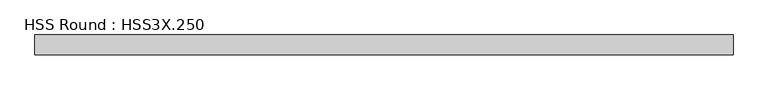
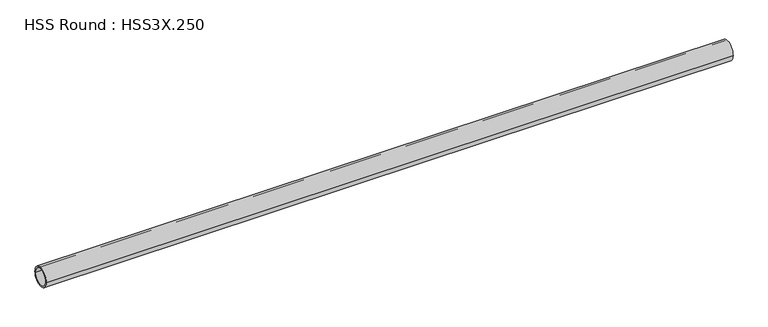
"""IFC4 building model written with IfcOpenShell, lengths in millimetres: member geometry, HSS Round : HSS3X.250."""

from ifc_helpers import new_model, si_unit, point, frame, origin, origin_2d, place, context, project, spatial, circle_curve, trimmed, segment, composite_curve, outline, extrude, source, transform, mapped, element, save


def hss_round_hss3x_250_1bf88428(model_context):
    return source(origin(), model_context, "Body", "SweptSolid", [
        extrude(outline(composite_curve([segment(trimmed(circle_curve(origin_2d(), 38.1), [point((-38.1, 0.0))], [point((38.1, 0.0))], False, "CARTESIAN"), True, "CONTINUOUS"), segment(trimmed(circle_curve(origin_2d(), 38.1), [point((38.1, 0.0))], [point((-38.1, 0.0))], False, "CARTESIAN"), True, "CONTINUOUS")], self_intersect=False), holes=[composite_curve([segment(trimmed(circle_curve(origin_2d(), 31.75), [point((31.75, 0.0))], [point((-31.75, 0.0))], True, "CARTESIAN"), True, "CONTINUOUS"), segment(trimmed(circle_curve(origin_2d(), 31.75), [point((-31.75, 0.0))], [point((31.75, 0.0))], True, "CARTESIAN"), True, "CONTINUOUS")], self_intersect=False)]), frame((-1391.2826432, 0.0, 0.0), z_axis=(1.0, 0.0, 0.0), x_axis=(0.0, 1.0, 0.0)), (0.0, 0.0, 1.0), 2649.4966777),
    ])


if __name__ == "__main__":
    model = new_model("IFC4")
    model_context = context("Model", 3, world=origin())
    ifc_project = project(units=[si_unit("LENGTHUNIT", "METRE", prefix="MILLI")], contexts=[model_context])
    site = spatial("IfcSite", under=ifc_project)
    building = spatial("IfcBuilding", under=site)
    placement = place(None, origin())
    hss_round_hss3x_250_shape = hss_round_hss3x_250_1bf88428(model_context)
    element("IfcMember", 1, ObjectType="HSS Round : HSS3X.250", at=placement, inside=building, context=model_context, shape_type="MappedRepresentation", body=[
        mapped(hss_round_hss3x_250_shape, transform((0.0, 0.0, 0.0), x_axis=(1.0, 0.0, 0.0), y_axis=(0.0, 1.0, 0.0), z_axis=(0.0, 0.0, 1.0))),
    ])
    save(model, "model.ifc")
